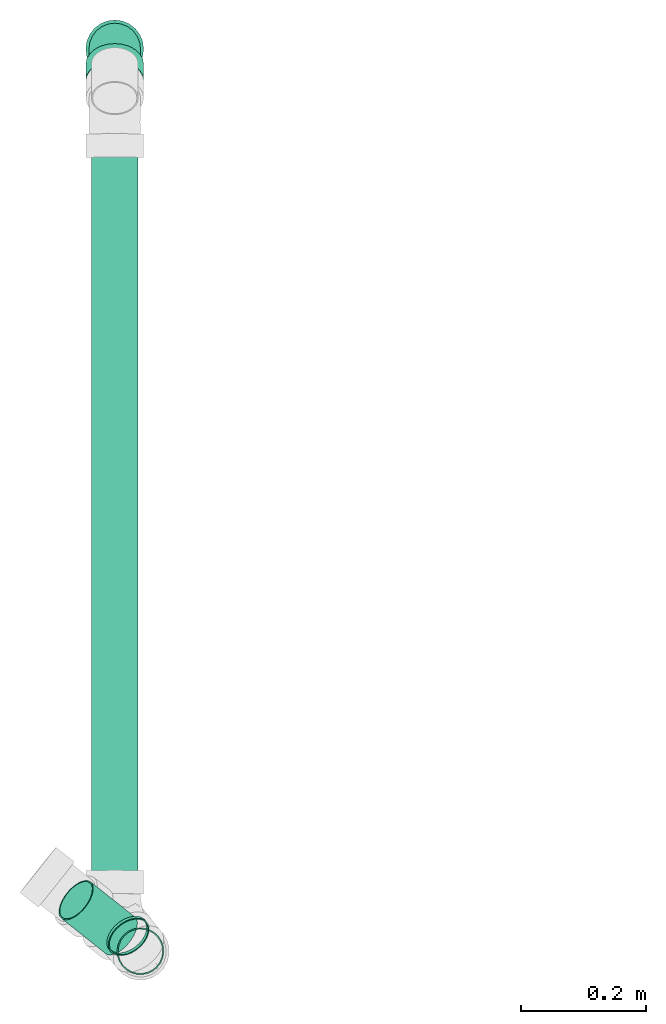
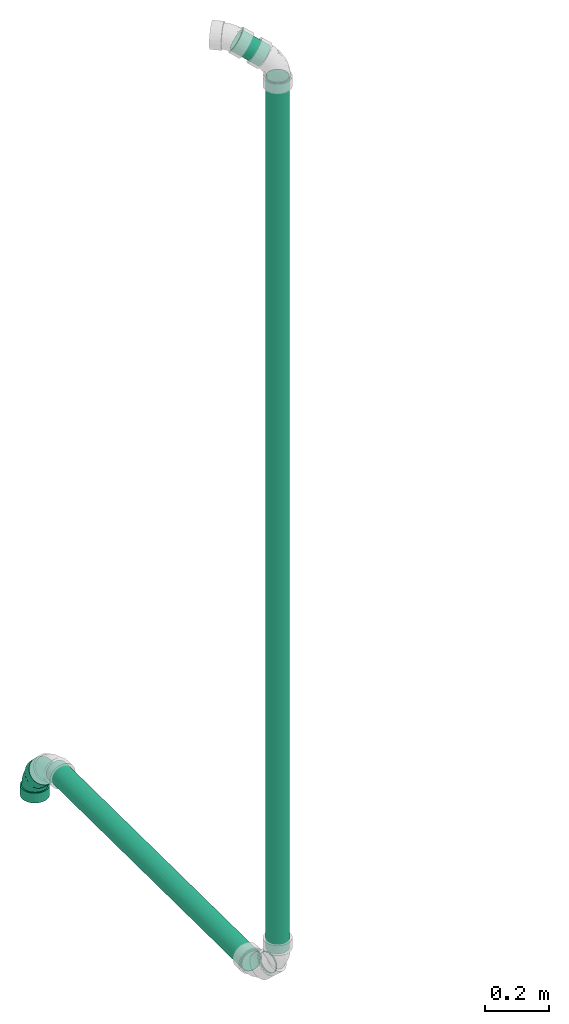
# One storey, part 1 of 4: 4 flow segments, 1 flow fitting.
"""IFC2X3 building model written with IfcOpenShell, lengths in millimetres."""

from ifc_helpers import new_model, entity, si_unit, converted_unit, derived_unit, direction, frame, origin_with_axes, origin_2d_with_axis, place, context, subcontext, project, spatial, hollow_circle, extrude, open_shell, surface_model, source, transform, mapped, type_object, element, save


model = new_model("IFC2X3")

# Units and contexts
model_context = context("Model", 3, precision=0.01, world=frame((0.0, 4.29681676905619e-09, 0.0)), true_north=direction((4.01073788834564e-13, 1.0)))
plan_context = context("Plan", 3, precision=0.01, world=frame((0.0, 4.29681676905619e-09, 0.0)), true_north=direction((4.01073788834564e-13, 1.0)))
body_context = subcontext(model_context, "Body", "Model", "MODEL_VIEW")
ifc_project = project(units=[converted_unit("PLANEANGLEUNIT", "DEGREE", entity("IfcPositiveLengthMeasure", 0.0174532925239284), si_unit("PLANEANGLEUNIT", "RADIAN"), dimensions=[0, 0, 0, 0, 0, 0, 0]), si_unit("AREAUNIT", "SQUARE_METRE"), si_unit("LENGTHUNIT", "METRE", prefix="MILLI"), si_unit("MASSUNIT", "GRAM", prefix="KILO"), si_unit("POWERUNIT", "WATT"), si_unit("PRESSUREUNIT", "PASCAL", prefix="KILO"), si_unit("FORCEUNIT", "NEWTON", prefix="KILO"), si_unit("ELECTRICVOLTAGEUNIT", "VOLT"), si_unit("ELECTRICCURRENTUNIT", "AMPERE"), si_unit("THERMODYNAMICTEMPERATUREUNIT", "DEGREE_CELSIUS"), si_unit("TIMEUNIT", "SECOND"), si_unit("VOLUMEUNIT", "CUBIC_METRE"), derived_unit("LINEARVELOCITYUNIT", [(si_unit("LENGTHUNIT", "METRE"), 1), (si_unit("TIMEUNIT", "SECOND"), -1)]), derived_unit("VOLUMETRICFLOWRATEUNIT", [(si_unit("VOLUMEUNIT", "CUBIC_METRE"), 1), (si_unit("TIMEUNIT", "SECOND"), -1)]), derived_unit("THERMALTRANSMITTANCEUNIT", [(si_unit("POWERUNIT", "WATT"), 1), (si_unit("THERMODYNAMICTEMPERATUREUNIT", "KELVIN"), -1), (si_unit("AREAUNIT", "SQUARE_METRE"), -1)]), derived_unit("SOUNDPRESSUREUNIT", [(si_unit("PRESSUREUNIT", "PASCAL"), 1)])], contexts=[model_context, plan_context])

# Site, building, storey
site_placement = place(None, frame((0.0, -4.29681676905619e-09, 0.0), z_axis=(0.0, 0.0, 1.0), x_axis=(1.0, 0.0, 0.0)))
site = spatial("IfcSite", under=ifc_project, at=site_placement, CompositionType="ELEMENT")
building_placement = place(site_placement, frame((0.0, 4.29681676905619e-09, 0.0), z_axis=(0.0, 0.0, 1.0), x_axis=(1.0, 0.0, 0.0)))
building = spatial("IfcBuilding", under=site, at=building_placement, Name="mc-building", CompositionType="ELEMENT")
storey_placement = place(building_placement, frame((0.0, 0.0, 200300.0), z_axis=(0.0, 0.0, 1.0), x_axis=(1.0, 0.0, 0.0)))
storey = spatial("IfcBuildingStorey", under=building, at=storey_placement, Name="Nivå C", CompositionType="ELEMENT", Elevation=200300.0)

# Flow fitting
pipe_fitting_type = type_object("IfcPipeFittingType", Name="magi_sewer_bend_001", PredefinedType="BEND")
shared_shape_1 = source(origin_with_axes(), body_context, "Body", "SurfaceModel", [
    surface_model("IfcShellBasedSurfaceModel", [(-71.67262, -44.67407, -11.97038), (-71.67262, -11.97038, -44.67407), (-71.67262, -23.125, -40.05367), (-71.67262, -32.70369, -32.70369), (-71.67262, 0.0, -46.25), (-71.67262, -40.05367, -23.125), (-71.67262, -46.25, 0.0), (-71.67262, 11.97038, -44.67407), (-71.67262, 32.70369, -32.70369), (-71.67262, 23.125, -40.05367), (-71.67262, 44.67407, -11.97038), (-71.67262, 40.05367, -23.125), (-71.67262, -32.70369, 32.70369), (-71.67262, -44.67407, 11.97038), (-71.67262, -40.05367, 23.125), (-71.67262, 40.05367, 23.125), (-71.67262, -23.125, 40.05367), (-71.67262, -11.97038, 44.67407), (-71.67262, 0.0, 46.25), (-71.67262, 11.97038, 44.67407), (-71.67262, 44.67407, 11.97038), (-71.67262, 46.25, 0.0), (-71.67262, 23.125, 40.05367), (-71.67262, 32.70369, 32.70369), (-34.17262, 0.0, 46.25), (-34.17262, -11.97038, 44.67407), (-34.17262, -23.125, 40.05367), (-34.17262, -32.70369, 32.70369), (-34.17262, -40.05367, 23.125), (-34.17262, -44.67407, 11.97038), (-34.17262, 40.05367, 23.125), (-34.17262, -44.67407, -11.97038), (-34.17262, 23.125, 40.05367), (-34.17262, 32.70369, 32.70369), (-34.17262, 11.97038, 44.67407), (-34.17262, 44.67407, 11.97038), (-34.17262, 44.67407, -11.97038), (-34.17262, 46.25, 0.0), (-34.17262, -32.70369, -32.70369), (-34.17262, -40.05367, -23.125), (-34.17262, -23.125, -40.05367), (-34.17262, -11.97038, -44.67407), (-34.17262, 11.97038, -44.67407), (-34.17262, 32.70369, -32.70369), (-34.17262, 40.05367, -23.125), (-34.17262, 23.125, -40.05367), (-34.17262, 0.0, -46.25), (-34.17262, -46.25, 0.0), (22.35797, 79.00242, 23.125), (17.97651, 83.38388, 0.0), (19.09086, 82.26953, 11.97038), (34.32835, 67.03204, 40.05367), (27.55519, 73.8052, 32.70369), (42.21586, 59.14453, 44.67407), (27.55519, 73.8052, -32.70369), (73.8052, 27.55519, 32.70369), (42.21586, 59.14453, -44.67407), (19.09086, 82.26953, -11.97038), (22.35797, 79.00242, -23.125), (34.32835, 67.03204, -40.05367), (50.6802, 50.6802, 46.25), (59.14453, 42.21586, 44.67407), (67.03204, 34.32835, 40.05367), (67.03204, 34.32835, -40.05367), (79.00242, 22.35797, 23.125), (82.26953, 19.09086, 11.97038), (83.38388, 17.97651, 0.0), (82.26953, 19.09086, -11.97038), (59.14453, 42.21586, -44.67407), (50.6802, 50.6802, -46.25), (73.8052, 27.55519, -32.70369), (79.00242, 22.35797, -23.125), (56.86738, -8.54, 0.0), (55.75303, -7.42565, 11.97038), (52.48592, -4.15853, 23.125), (47.28869, 1.03869, 32.70369), (40.51554, 7.81185, 40.05367), (32.62803, 15.69935, 44.67407), (40.51554, 7.81185, -40.05367), (15.69935, 32.62803, 44.67407), (55.75303, -7.42565, -11.97038), (47.28869, 1.03869, -32.70369), (52.48592, -4.15853, -23.125), (32.62803, 15.69935, -44.67407), (15.69935, 32.62803, -44.67407), (24.16369, 24.16369, -46.25), (-4.15853, 52.48592, 23.125), (7.81185, 40.51554, 40.05367), (1.03869, 47.28869, 32.70369), (-4.15853, 52.48592, -23.125), (-7.42565, 55.75303, 11.97038), (1.03869, 47.28869, -32.70369), (7.81185, 40.51554, -40.05367), (-7.42565, 55.75303, -11.97038), (-8.54, 56.86738, 0.0), (24.16369, 24.16369, 46.25), (-34.17262, 10.67629, -39.84444), (-34.17262, 0.0, -41.25), (-34.17262, 35.72355, -20.625), (-34.17262, 20.625, -35.72355), (-34.17262, -10.67629, -39.84444), (-34.17262, 29.16816, -29.16816), (-34.17262, 39.84444, -10.67629), (-34.17262, -29.16816, -29.16816), (-34.17262, -35.72355, -20.625), (-34.17262, -20.625, -35.72355), (-34.17262, -39.84444, -10.67629), (-34.17262, -41.25, 0.0), (-34.17262, -39.84444, 10.67629), (-34.17262, 41.25, 0.0), (-34.17262, 35.72355, 20.625), (-34.17262, 39.84444, 10.67629), (-34.17262, 10.67629, 39.84444), (-34.17262, 20.625, 35.72355), (-34.17262, 29.16816, 29.16816), (-34.17262, -35.72355, 20.625), (-34.17262, -29.16816, 29.16816), (-34.17262, -10.67629, 39.84444), (-34.17262, -20.625, 35.72355), (-34.17262, 0.0, 41.25), (16.61442, 31.71296, -39.84444), (38.74777, 9.57961, -35.72355), (24.16369, 24.16369, -41.25), (9.57961, 38.74777, -35.72355), (49.42405, -1.09667, 20.625), (52.33797, -4.01058, -10.67629), (-1.09667, 49.42405, -20.625), (3.53869, 44.78869, -29.16816), (44.78869, 3.53869, -29.16816), (31.71296, 16.61442, -39.84444), (49.42405, -1.09667, -20.625), (52.33797, -4.01058, 10.67629), (53.33185, -5.00446, 0.0), (-5.00446, 53.33185, 0.0), (-4.01058, 52.33797, -10.67629), (-4.01058, 52.33797, 10.67629), (-1.09667, 49.42405, 20.625), (3.53869, 44.78869, 29.16816), (9.57961, 38.74777, 35.72355), (16.61442, 31.71296, 39.84444), (24.16369, 24.16369, 41.25), (31.71296, 16.61442, 39.84444), (44.78869, 3.53869, 29.16816), (38.74777, 9.57961, 35.72355), (10.50612, -25.36402, 22.98738), (-9.12592, -23.31355, 31.83011), (-13.32012, -31.54844, 24.15346), (-13.78242, -38.56558, 0.0), (-2.14376, -37.03332, 0.0), (-8.80455, -38.00287, 7.04384), (31.72686, -12.88936, 24.15346), (-16.3448, -15.12603, 37.70038), (4.23545, -10.22528, 37.18064), (1.2244, 24.79863, 38.50101), (7.45704, 19.5259, 40.65003), (-12.31128, -3.97165, 40.70351), (-3.92344, 9.47201, 41.10505), (-20.66814, 5.71607, 40.99967), (-11.71714, 28.28769, 33.67672), (-18.19114, 34.59421, 26.03152), (22.25324, 0.8618, 37.70038), (-15.84955, 17.16525, 38.56294), (15.91914, -26.99759, 16.25694), (-7.39626, -35.6875, 14.32507), (12.80708, -30.91902, 8.96571), (-16.99315, 41.02508, 16.94728), (33.09785, -20.64633, 7.04384), (37.01562, -17.52434, 0.0), (-16.52245, 44.20054, 8.66711), (30.46482, -20.00493, 14.32507), (11.51377, 5.89701, 40.70351), (22.93817, -10.03217, 31.83011), (-18.38693, 44.38997, 0.0), (6.92373, -16.71536, 32.89459), (12.77931, -30.85198, 0.0), (27.70238, -24.67064, 0.0), (-12.31128, -3.97165, -40.70351), (-8.80455, -38.00287, -7.04384), (12.80708, -30.91902, -8.96571), (11.51377, 5.89701, -40.70351), (-18.40106, 16.66949, -38.50101), (-19.07982, 8.53397, -40.65003), (-11.59873, 37.32487, -26.03152), (22.93817, -10.03217, -31.83011), (-16.99315, 41.02508, -16.94728), (30.46482, -20.00492, -14.32507), (-19.57136, 42.93764, -8.66711), (-0.93034, 23.34499, -38.56294), (-7.39626, -35.6875, -14.32507), (-11.71715, 28.28769, -33.67672), (-13.32012, -31.54844, -24.15346), (-9.12592, -23.31355, -31.83011), (6.92373, -16.71536, -32.89459), (10.50612, -25.36402, -22.98737), (-16.3448, -15.12603, -37.70038), (22.25324, 0.8618, -37.70038), (4.23545, -10.22528, -37.18064), (33.09785, -20.64633, -7.04384), (10.57272, 18.65645, -40.99967), (7.83365, -30.34671, -16.25694), (31.72686, -12.88936, -24.15346), (-3.92344, 9.47201, -41.10505)], [open_shell([[[0, 1, 2]], [[0, 2, 3]], [[1, 0, 4]], [[0, 3, 5]], [[4, 0, 6]], [[7, 8, 9]], [[8, 7, 4]], [[8, 10, 11]], [[10, 8, 4]], [[4, 6, 10]], [[6, 12, 10]], [[13, 14, 12]], [[10, 12, 15]], [[16, 17, 18]], [[16, 18, 12]], [[19, 12, 18]], [[10, 20, 21]], [[15, 20, 10]], [[15, 22, 23]], [[22, 15, 19]], [[12, 19, 15]], [[6, 13, 12]], [[24, 25, 26]], [[24, 26, 27]], [[27, 28, 29]], [[24, 27, 30]], [[27, 31, 30]], [[32, 30, 33]], [[30, 32, 34]], [[35, 36, 37]], [[30, 34, 24]], [[35, 30, 36]], [[27, 29, 31]], [[36, 30, 31]], [[38, 31, 39]], [[40, 41, 31]], [[40, 31, 38]], [[42, 31, 41]], [[36, 43, 44]], [[36, 31, 43]], [[43, 42, 45]], [[31, 42, 43]], [[41, 46, 42]], [[31, 29, 47]], [[36, 10, 37]], [[44, 11, 36]], [[9, 43, 45]], [[44, 43, 8]], [[7, 45, 42]], [[36, 11, 10]], [[10, 21, 37]], [[7, 9, 45]], [[8, 43, 9]], [[8, 11, 44]], [[4, 7, 42]], [[42, 46, 4]], [[46, 41, 1]], [[5, 39, 31]], [[39, 3, 38]], [[0, 31, 47]], [[1, 40, 2]], [[40, 1, 41]], [[40, 38, 2]], [[38, 3, 2]], [[39, 5, 3]], [[0, 5, 31]], [[47, 6, 0]], [[46, 1, 4]], [[29, 13, 47]], [[28, 14, 29]], [[16, 27, 26]], [[28, 27, 12]], [[17, 26, 25]], [[29, 14, 13]], [[13, 6, 47]], [[17, 16, 26]], [[12, 27, 16]], [[12, 14, 28]], [[18, 17, 25]], [[25, 24, 18]], [[33, 22, 32]], [[35, 15, 30]], [[33, 30, 23]], [[20, 35, 37]], [[32, 19, 34]], [[32, 22, 19]], [[19, 18, 34]], [[33, 23, 22]], [[30, 15, 23]], [[20, 15, 35]], [[37, 21, 20]], [[34, 18, 24]], [[48, 49, 50]], [[51, 48, 52]], [[48, 53, 54]], [[53, 48, 51]], [[53, 55, 56]], [[57, 54, 58]], [[57, 49, 48]], [[54, 56, 59]], [[57, 48, 54]], [[53, 56, 54]], [[53, 60, 55]], [[61, 62, 55]], [[56, 55, 63]], [[64, 65, 66]], [[55, 64, 63]], [[66, 67, 64]], [[56, 68, 69]], [[63, 68, 56]], [[70, 67, 71]], [[67, 70, 63]], [[64, 67, 63]], [[60, 61, 55]], [[72, 73, 74]], [[72, 74, 75]], [[75, 76, 77]], [[72, 75, 78]], [[75, 79, 78]], [[80, 81, 82]], [[81, 80, 78]], [[83, 84, 85]], [[78, 80, 72]], [[83, 78, 84]], [[75, 77, 79]], [[84, 78, 79]], [[86, 79, 87]], [[84, 79, 86]], [[86, 87, 88]], [[89, 86, 90]], [[84, 91, 92]], [[91, 84, 89]], [[90, 93, 89]], [[89, 84, 86]], [[94, 93, 90]], [[79, 77, 95]], [[84, 56, 85]], [[92, 59, 84]], [[58, 91, 89]], [[92, 91, 54]], [[57, 89, 93]], [[84, 59, 56]], [[56, 69, 85]], [[57, 58, 89]], [[54, 91, 58]], [[54, 59, 92]], [[49, 57, 93]], [[93, 94, 49]], [[94, 90, 50]], [[51, 87, 79]], [[87, 52, 88]], [[53, 79, 95]], [[50, 86, 48]], [[86, 50, 90]], [[86, 88, 48]], [[88, 52, 48]], [[87, 51, 52]], [[53, 51, 79]], [[95, 60, 53]], [[94, 50, 49]], [[77, 61, 95]], [[76, 62, 77]], [[64, 75, 74]], [[76, 75, 55]], [[65, 74, 73]], [[77, 62, 61]], [[61, 60, 95]], [[65, 64, 74]], [[55, 75, 64]], [[55, 62, 76]], [[66, 65, 73]], [[73, 72, 66]], [[67, 72, 80]], [[71, 80, 82]], [[63, 78, 83]], [[68, 83, 85]], [[82, 70, 71]], [[71, 67, 80]], [[81, 63, 70]], [[81, 78, 63]], [[63, 83, 68]], [[85, 69, 68]], [[81, 70, 82]], [[72, 67, 66]], [[96, 97, 98]], [[99, 96, 98]], [[100, 98, 97]], [[101, 99, 98]], [[102, 98, 100]], [[103, 104, 105]], [[100, 105, 104]], [[104, 106, 100]], [[106, 102, 100]], [[107, 108, 106]], [[109, 102, 106]], [[110, 111, 109]], [[108, 110, 106]], [[112, 113, 114]], [[108, 114, 110]], [[114, 108, 112]], [[115, 116, 108]], [[117, 108, 116]], [[118, 117, 116]], [[117, 112, 108]], [[117, 119, 112]], [[109, 106, 110]], [[120, 121, 122]], [[123, 124, 120]], [[125, 120, 124]], [[126, 123, 127]], [[124, 123, 126]], [[121, 125, 128]], [[121, 129, 122]], [[128, 125, 130]], [[120, 125, 121]], [[125, 131, 132]], [[133, 126, 134]], [[133, 135, 136]], [[126, 136, 124]], [[137, 138, 139]], [[137, 139, 136]], [[140, 136, 139]], [[124, 141, 142]], [[131, 125, 124]], [[142, 141, 143]], [[141, 124, 140]], [[136, 140, 124]], [[126, 133, 136]], [[144, 145, 146]], [[147, 148, 149]], [[118, 116, 145]], [[124, 142, 150]], [[151, 145, 152]], [[146, 145, 116]], [[139, 153, 154]], [[117, 118, 151]], [[155, 156, 157]], [[119, 117, 155]], [[114, 158, 159]], [[143, 141, 160]], [[157, 112, 119]], [[113, 161, 158]], [[108, 147, 149]], [[138, 137, 158]], [[162, 163, 164]], [[158, 114, 113]], [[116, 115, 146]], [[110, 159, 165]], [[111, 110, 165]], [[131, 166, 167]], [[168, 109, 111]], [[169, 162, 164]], [[163, 149, 164]], [[113, 112, 161]], [[140, 154, 170]], [[142, 143, 171]], [[136, 135, 165]], [[170, 141, 140]], [[144, 146, 163]], [[142, 171, 150]], [[156, 154, 153]], [[171, 143, 160]], [[115, 163, 146]], [[166, 131, 169]], [[144, 150, 171]], [[157, 161, 112]], [[144, 162, 150]], [[111, 165, 168]], [[115, 108, 163]], [[172, 168, 133]], [[145, 173, 152]], [[135, 168, 165]], [[152, 170, 155]], [[136, 165, 159]], [[152, 160, 170]], [[136, 159, 137]], [[156, 155, 170]], [[139, 138, 153]], [[153, 158, 161]], [[151, 155, 117]], [[110, 114, 159]], [[169, 131, 124]], [[169, 124, 150]], [[173, 144, 171]], [[137, 159, 158]], [[158, 153, 138]], [[156, 153, 161]], [[145, 151, 118]], [[155, 151, 152]], [[170, 160, 141]], [[171, 160, 152]], [[108, 107, 147]], [[164, 148, 174]], [[108, 149, 163]], [[148, 164, 149]], [[166, 164, 175]], [[167, 166, 175]], [[167, 132, 131]], [[164, 166, 169]], [[170, 154, 156]], [[140, 139, 154]], [[155, 157, 119]], [[161, 157, 156]], [[144, 173, 145]], [[171, 152, 173]], [[133, 168, 135]], [[168, 172, 109]], [[150, 162, 169]], [[163, 162, 144]], [[175, 164, 174]], [[100, 97, 176]], [[148, 177, 178]], [[122, 129, 179]], [[180, 181, 96]], [[98, 182, 101]], [[121, 128, 183]], [[184, 182, 98]], [[130, 125, 185]], [[102, 186, 184]], [[123, 120, 187]], [[106, 177, 147]], [[99, 180, 96]], [[177, 106, 188]], [[127, 189, 182]], [[188, 104, 190]], [[190, 103, 191]], [[103, 105, 191]], [[192, 193, 191]], [[106, 104, 188]], [[103, 190, 104]], [[194, 105, 100]], [[195, 179, 129]], [[134, 126, 184]], [[196, 194, 176]], [[109, 172, 186]], [[193, 190, 191]], [[133, 134, 186]], [[196, 176, 179]], [[127, 123, 189]], [[184, 98, 102]], [[126, 182, 184]], [[194, 191, 105]], [[187, 189, 123]], [[181, 176, 97]], [[189, 187, 180]], [[101, 189, 99]], [[125, 167, 197]], [[198, 120, 122]], [[195, 129, 121]], [[199, 185, 178]], [[128, 200, 183]], [[196, 195, 183]], [[128, 130, 200]], [[201, 198, 179]], [[200, 193, 183]], [[201, 179, 176]], [[197, 167, 175]], [[198, 187, 120]], [[201, 181, 180]], [[177, 188, 178]], [[193, 199, 190]], [[183, 192, 196]], [[130, 185, 200]], [[134, 184, 186]], [[193, 200, 185]], [[126, 127, 182]], [[101, 182, 189]], [[189, 180, 99]], [[201, 180, 187]], [[176, 194, 100]], [[191, 194, 196]], [[183, 195, 121]], [[179, 195, 196]], [[147, 177, 148]], [[147, 107, 106]], [[199, 178, 188]], [[197, 178, 185]], [[178, 175, 174]], [[125, 132, 167]], [[178, 197, 175]], [[125, 197, 185]], [[176, 181, 201]], [[97, 96, 181]], [[179, 198, 122]], [[187, 198, 201]], [[193, 192, 183]], [[191, 196, 192]], [[109, 186, 102]], [[186, 172, 133]], [[190, 199, 188]], [[185, 199, 193]], [[148, 178, 174]]])]),
])
flow_fitting_placement = place(storey_placement, frame((324436.0678, 464431.45245, 8981.14288), z_axis=(1.0, 0.0, 0.0), x_axis=(0.0, 0.0, 1.0)))
element("IfcFlowFitting", 1, at=flow_fitting_placement, inside=storey, type_object=pipe_fitting_type, Name="magi_sewer_bend_001", context=body_context, shape_type="MappedRepresentation", body=[
    mapped(shared_shape_1, transform((0.0, 0.0, 0.0), scale=1.0)),
])

# Flow segments
pipe_segment_type = type_object("IfcPipeSegmentType", Name="MA", PredefinedType="RIGIDSEGMENT")
shared_shape_2 = source(origin_with_axes(), body_context, "Body", "SweptSolid", [
    extrude(hollow_circle(Radius=37.5, WallThickness=2.0, at=origin_2d_with_axis()), frame((0.0, 0.0, 0.0), z_axis=(1.0, 0.0, 0.0), x_axis=(0.0, 1.0, 0.0)), (0.0, 0.0, 1.0), 1215.9),
])
flow_segment_1_placement = place(storey_placement, frame((324436.0678, 464295.30957, 9083.93398), z_axis=(2.09999999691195e-05, 0.009999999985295, 0.999949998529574), x_axis=(0.0, -0.999949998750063, 0.0099999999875)))
element("IfcFlowSegment", 2, at=flow_segment_1_placement, inside=storey, type_object=pipe_segment_type, Name="MA", context=body_context, shape_type="MappedRepresentation", body=[
    mapped(shared_shape_2, transform((0.0, 0.0, 0.0), scale=1.0)),
])
shared_shape_3 = source(origin_with_axes(), body_context, "Body", "SweptSolid", [
    extrude(hollow_circle(Radius=37.5, WallThickness=2.0, at=origin_2d_with_axis()), frame((0.0, 0.0, 0.0), z_axis=(1.0, 0.0, 0.0), x_axis=(0.0, 1.0, 0.0)), (0.0, 0.0, 1.0), 5.2),
])
flow_segment_2_placement = place(storey_placement, frame((324456.01192, 463013.74289, 9123.03192000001), z_axis=(0.362770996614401, 0.804665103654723, 0.47001199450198), x_axis=(0.48356915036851, -0.593698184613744, 0.643182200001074)))
element("IfcFlowSegment", 3, at=flow_segment_2_placement, inside=storey, type_object=pipe_segment_type, Name="MA", context=body_context, shape_type="MappedRepresentation", body=[
    mapped(shared_shape_3, transform((0.0, 0.0, 0.0), scale=1.0)),
])
shared_shape_4 = source(origin_with_axes(), body_context, "Body", "SweptSolid", [
    extrude(hollow_circle(Radius=37.5, WallThickness=2.0, at=origin_2d_with_axis()), frame((0.0, 0.0, 0.0), z_axis=(1.0, 0.0, 0.0), x_axis=(0.0, 1.0, 0.0)), (0.0, 0.0, 1.0), 3318.1),
])
flow_segment_3_placement = place(storey_placement, frame((324477.11273, 462987.83653, 9189.54206000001), z_axis=(-0.631528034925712, 0.775353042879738, 0.0), x_axis=(0.0, 0.0, 1.0)))
element("IfcFlowSegment", 4, at=flow_segment_3_placement, inside=storey, type_object=pipe_segment_type, Name="MA", context=body_context, shape_type="MappedRepresentation", body=[
    mapped(shared_shape_4, transform((0.0, 0.0, 0.0), scale=1.0)),
])
shared_shape_5 = source(origin_with_axes(), body_context, "Body", "SweptSolid", [
    extrude(hollow_circle(Radius=37.5, WallThickness=2.0, at=origin_2d_with_axis()), frame((0.0, 0.0, 0.0), z_axis=(1.0, 0.0, 0.0), x_axis=(0.0, 1.0, 0.0)), (0.0, 0.0, 1.0), 104.0),
])
flow_segment_4_placement = place(storey_placement, frame((324444.77468, 463013.52284, 12579.07117), z_axis=(-0.391062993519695, 0.310622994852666, -0.866361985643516), x_axis=(-0.678395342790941, 0.538853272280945, 0.499416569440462)))
element("IfcFlowSegment", 5, at=flow_segment_4_placement, inside=storey, type_object=pipe_segment_type, Name="MA", context=body_context, shape_type="MappedRepresentation", body=[
    mapped(shared_shape_5, transform((0.0, 0.0, 0.0), scale=1.0)),
])

save(model, "model.ifc")
